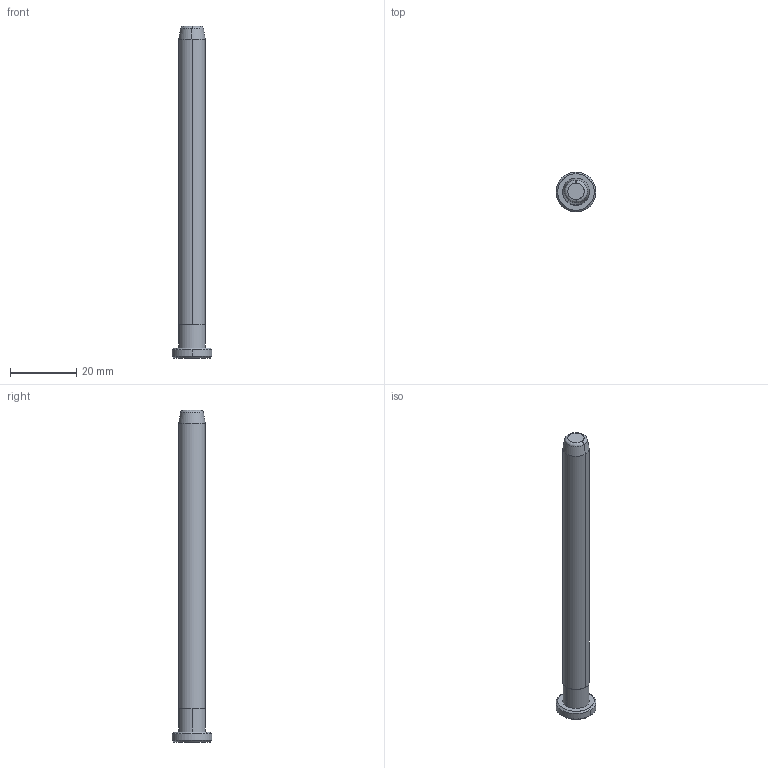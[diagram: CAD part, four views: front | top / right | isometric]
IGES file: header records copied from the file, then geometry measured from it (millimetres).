
Start section: START RECORD GO HERE.
Global section: file name: B80808100.igs; native system: DASSAULT SYSTEMES CATIA V5 R20 - www.3ds.com; preprocessor: CATIA Version 5 Release 20 ; author: Utente; organization: NB04-ASUS; date: 20200419.165638; units: millimetre
Bounding box: 12 x 12 x 100 mm (x, y, z)
Surface area: 2725.5 mm2 (no closed solid volume)
Topology: 0 solids, 0 shells, 20 faces, 80 edges, 80 vertices
Faces by surface type: revolution 16, plane 4
